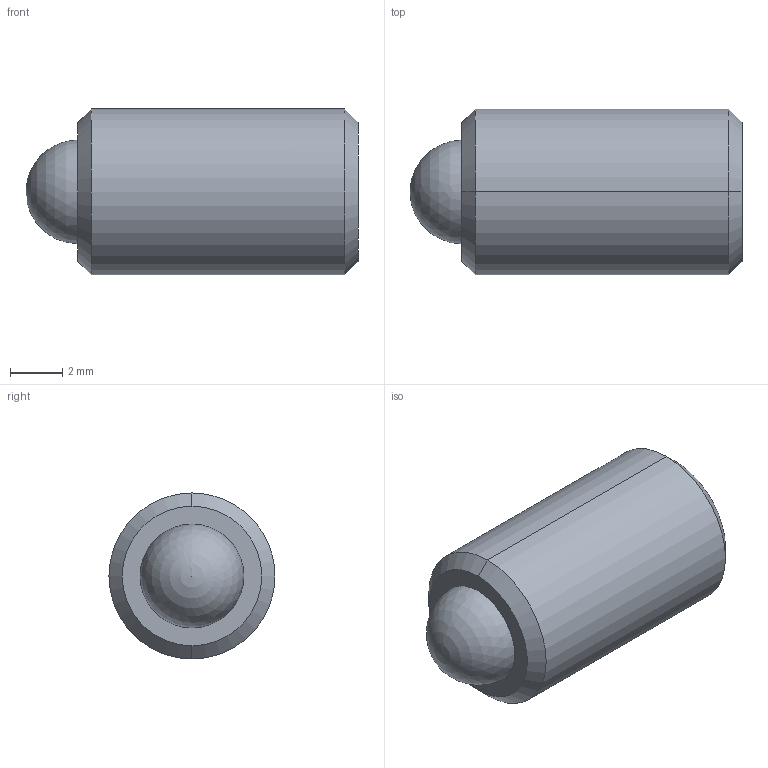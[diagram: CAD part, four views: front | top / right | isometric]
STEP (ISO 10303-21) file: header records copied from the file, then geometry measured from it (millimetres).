
FILE_DESCRIPTION (( 'STEP AP214' ), '1' );
FILE_NAME ('TS250-100-500.STEP', '2013-02-11T22:25:57', ( 'workpc' ), ( 'Microsoft' ), 'SwSTEP 2.0', 'SolidWorks 2013', '' );
FILE_SCHEMA (( 'AUTOMOTIVE_DESIGN' ));
Length unit declared in the file: inch
Products named in the file (1): TS250-100-500
Bounding box: 12.7 x 6.35 x 6.35 mm (x, y, z)
Volume: 331.5 mm3; surface area: 357.6 mm2
Topology: 2 solids, 2 shells, 20 faces, 45 edges, 29 vertices
Faces by surface type: plane 10, cylinder 4, cone 4, sphere 2
Entity records: 599 total; most frequent: DIRECTION 96, CARTESIAN_POINT 87, ORIENTED_EDGE 80, EDGE_CURVE 40, AXIS2_PLACEMENT_3D 35, VECTOR 26, VERTEX_POINT 26, LINE 26
